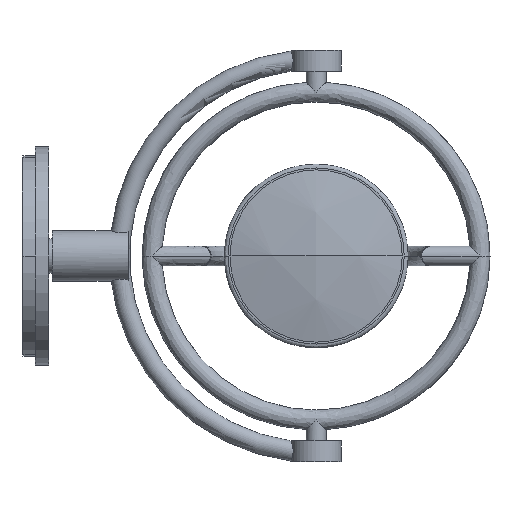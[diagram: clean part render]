
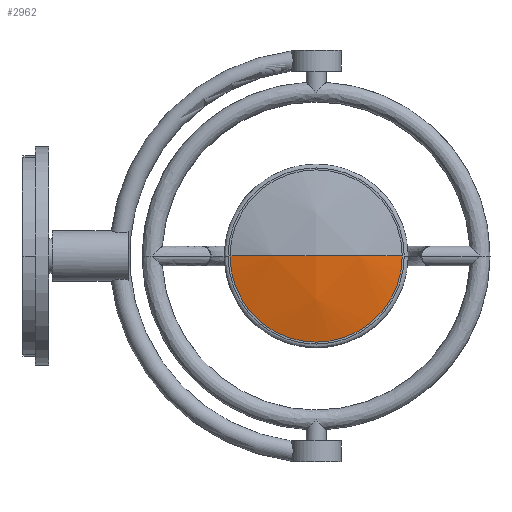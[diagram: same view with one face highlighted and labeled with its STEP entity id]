
A CAD part, front view. The second image highlights one B-rep face of the part: STEP entity #2962.
In plain terms, the highlighted free-form (B-spline) face has degree [2, 2] with [3, 3] control points.
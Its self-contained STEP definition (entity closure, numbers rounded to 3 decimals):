
#2925=CARTESIAN_POINT('',(109.213,-34.249,-27.315));
#2926=CARTESIAN_POINT('',(154.65,-46.283,-30.62));
#2927=CARTESIAN_POINT('',(200.087,-34.249,-27.315));
#2928=CARTESIAN_POINT('',(109.213,-40.157,-5.806));
#2929=CARTESIAN_POINT('',(154.65,-52.637,-7.488));
#2930=CARTESIAN_POINT('',(200.087,-40.157,-5.806));
#2931=CARTESIAN_POINT('',(109.213,-40.157,16.5));
#2932=CARTESIAN_POINT('',(154.65,-52.637,16.5));
#2933=CARTESIAN_POINT('',(200.087,-40.157,16.5));
#2941=(BOUNDED_SURFACE()B_SPLINE_SURFACE(2,2,((#2925,#2928,#2931),(#2926,#2929,#2932),(#2927,#2930,#2933)),.UNSPECIFIED.,.F.,.F.,.U.)B_SPLINE_SURFACE_WITH_KNOTS((3,3),(3,3),(-0.268,0.268),(0.0,0.268),.UNSPECIFIED.)GEOMETRIC_REPRESENTATION_ITEM()RATIONAL_B_SPLINE_SURFACE(((1.0,0.991,1.0),(0.964,0.956,0.964),(1.0,0.991,1.0)))REPRESENTATION_ITEM('')SURFACE());
#2942=CARTESIAN_POINT('',(109.213,-40.157,16.5));
#2943=VERTEX_POINT('',#2942);
#2944=CARTESIAN_POINT('',(200.087,-40.157,16.5));
#2945=VERTEX_POINT('',#2944);
#2946=CARTESIAN_POINT('',(154.65,125.276,16.5));
#2947=DIRECTION('',(0.0,0.0,1.0));
#2948=DIRECTION('',(0.0,1.0,0.0));
#2949=AXIS2_PLACEMENT_3D('',#2946,#2947,#2948);
#2950=CIRCLE('',#2949,171.559);
#2951=EDGE_CURVE('',#2943,#2945,#2950,.T.);
#2952=ORIENTED_EDGE('',*,*,#2951,.F.);
#2953=CARTESIAN_POINT('',(154.65,-40.157,16.5));
#2954=DIRECTION('',(0.0,1.0,0.0));
#2955=DIRECTION('',(0.0,0.0,1.0));
#2956=AXIS2_PLACEMENT_3D('',#2953,#2954,#2955);
#2957=CIRCLE('',#2956,45.437);
#2958=EDGE_CURVE('',#2945,#2943,#2957,.T.);
#2959=ORIENTED_EDGE('',*,*,#2958,.F.);
#2960=EDGE_LOOP('',(#2952,#2959));
#2961=FACE_OUTER_BOUND('',#2960,.T.);
#2962=ADVANCED_FACE('',(#2961),#2941,.T.);
